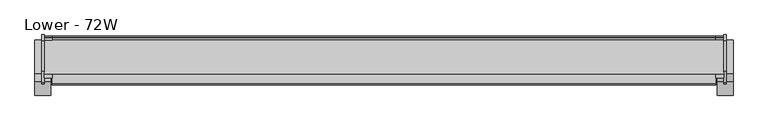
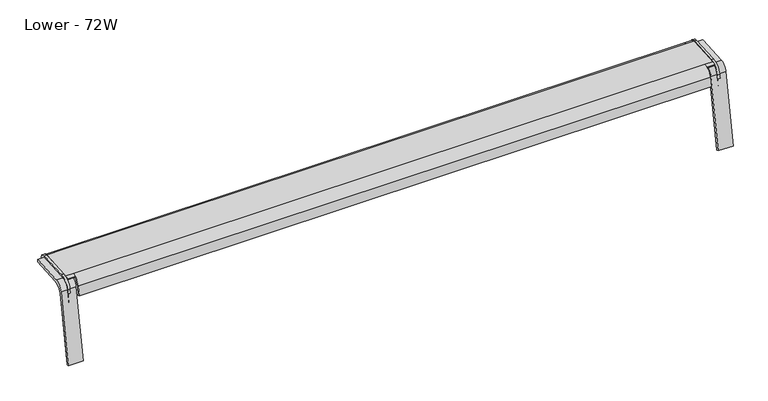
"""IFC4 building model written with IfcOpenShell, lengths in millimetres: furniture geometry, Steelcase Turnstone - Bivi - Accessories - Footshelf : Lower - 72W."""

from ifc_helpers import new_model, si_unit, point, frame, frame_2d, origin, place, context, project, spatial, polyline, circle_curve, trimmed, segment, composite_curve, outline, extrude, source, transform, mapped, element, save
from ifc_brep_helpers import plane_surface, cylinder_surface, revolved_surface, advanced_brep


def lower_72w_69a91847(model_context):
    return source(origin(), model_context, "Body", "SolidModel", [
        advanced_brep(
        [(3.8089258, -349.7007928, 225.2598813), (3.8089258, -347.9860524, 241.5745471), (3.8089258, -355.8408855, 249.7457315), (3.8089258, -443.2925363, 244.0318234), (3.8089258, -454.2428859, 240.8854416), (3.8089258, -456.4013878, 245.1785525), (3.8089258, -445.8509343, 248.0480858), (3.8089258, -354.5223353, 254.0153056), (3.8089258, -343.7814901, 242.8418758), (3.8089258, -345.6739167, 224.8366396), (1824.9910742, -345.6739167, 224.8366396), (1824.9910742, -349.7007928, 225.2598813), (25.4029566, -343.7814901, 242.8418758), (1803.3970434, -343.7814901, 242.8418758), (1824.9910742, -343.7814901, 242.8418758), (25.4029566, -354.5223353, 254.0153056), (25.4029566, -445.8509343, 248.0480858), (1803.3970434, -445.8509343, 248.0480858), (1824.9910742, -445.8509343, 248.0480858), (1824.9910742, -354.5223353, 254.0153056), (1803.3970434, -354.5223353, 254.0153056), (25.4029566, -456.4013878, 245.1785525), (25.4029566, -443.2925363, 244.0318234), (25.4029566, -454.2428859, 240.8854416), (25.4029566, -355.8408855, 249.7457315), (1803.3970434, -355.8408855, 249.7457315), (1824.9910742, -355.8408855, 249.7457315), (1824.9910742, -443.2925363, 244.0318234), (1803.3970434, -443.2925363, 244.0318234), (25.4029566, -347.9860524, 241.5745471), (1824.9910742, -347.9860524, 241.5745471), (1803.3970434, -347.9860524, 241.5745471), (1824.9910742, -456.4013878, 245.1785525), (1824.9910742, -454.2428859, 240.8854416), (1803.3970434, -456.4013878, 245.1785525), (1803.3970434, -454.2428859, 240.8854416), (1803.3970434, -471.1171503, 225.402562), (1803.3970434, -475.8257425, 198.6988086), (1803.3970434, -472.1069682, 198.1098126), (1803.3970434, -467.8983227, 221.9782273), (25.4029566, -467.8983227, 221.9782273), (25.4029566, -472.1069682, 198.1098126), (25.4029566, -475.8257425, 198.6988086), (25.4029566, -471.1171503, 225.402562)],
        [
            (0, 1),
            (1, 2, circle_curve(frame((3.8089258, -355.3576201, 242.3493301), z_axis=(1.0, 0.0, 0.0), x_axis=(0.0, 1.0, 0.0)), 7.4121724)),
            (2, 3),
            (3, 4, circle_curve(frame((3.8089258, -441.5480229, 217.3319585), z_axis=(1.0, 0.0, 0.0), x_axis=(0.0, 1.0, 0.0)), 26.7567957)),
            (4, 5),
            (5, 6, circle_curve(frame((3.8089258, -444.0595974, 220.6315854), z_axis=(-1.0, 0.0, 0.0), x_axis=(0.0, 1.0, 0.0)), 27.4749592)),
            (6, 7),
            (7, 8, circle_curve(frame((3.8089258, -353.8615092, 243.9013285), z_axis=(-1.0, 0.0, 0.0), x_axis=(0.0, 1.0, 0.0)), 10.1355426)),
            (8, 9),
            (9, 0),
            (9, 10),
            (10, 11),
            (11, 0),
            (8, 12),
            (12, 13),
            (13, 14),
            (14, 10),
            (7, 15),
            (15, 12, circle_curve(frame((25.4029566, -353.8615092, 243.9013285), z_axis=(-1.0, 0.0, 0.0), x_axis=(0.0, 1.0, 0.0)), 10.1355426)),
            (6, 16),
            (16, 17),
            (17, 18),
            (18, 19),
            (19, 20),
            (20, 15),
            (5, 21),
            (21, 16, circle_curve(frame((25.4029566, -444.0595974, 220.6315854), z_axis=(-1.0, 0.0, 0.0), x_axis=(0.0, 1.0, 0.0)), 27.4749592)),
            (3, 22),
            (22, 23, circle_curve(frame((25.4029566, -441.5480229, 217.3319585), z_axis=(1.0, 0.0, 0.0), x_axis=(0.0, 1.0, 0.0)), 26.7567957)),
            (23, 4),
            (2, 24),
            (24, 25),
            (25, 26),
            (26, 27),
            (27, 28),
            (28, 22),
            (1, 29),
            (29, 24, circle_curve(frame((25.4029566, -355.3576201, 242.3493301), z_axis=(1.0, 0.0, 0.0), x_axis=(0.0, 1.0, 0.0)), 7.4121724)),
            (11, 30),
            (30, 31),
            (31, 29),
            (23, 21),
            (14, 19, circle_curve(frame((1824.9910742, -353.8615092, 243.9013285), z_axis=(1.0, 0.0, 0.0), x_axis=(0.0, 1.0, 0.0)), 10.1355426)),
            (18, 32, circle_curve(frame((1824.9910742, -444.0595974, 220.6315854), z_axis=(1.0, 0.0, 0.0), x_axis=(0.0, 1.0, 0.0)), 27.4749592)),
            (32, 33),
            (33, 27, circle_curve(frame((1824.9910742, -441.5480229, 217.3319585), z_axis=(-1.0, 0.0, 0.0), x_axis=(0.0, 1.0, 0.0)), 26.7567957)),
            (26, 30, circle_curve(frame((1824.9910742, -355.3576201, 242.3493301), z_axis=(-1.0, 0.0, 0.0), x_axis=(0.0, 1.0, 0.0)), 7.4121724)),
            (13, 20, circle_curve(frame((1803.3970434, -353.8615092, 243.9013285), z_axis=(1.0, 0.0, 0.0), x_axis=(0.0, 1.0, 0.0)), 10.1355426)),
            (17, 34, circle_curve(frame((1803.3970434, -444.0595974, 220.6315854), z_axis=(1.0, 0.0, 0.0), x_axis=(0.0, 1.0, 0.0)), 27.4749592)),
            (34, 32),
            (33, 35),
            (35, 28, circle_curve(frame((1803.3970434, -441.5480229, 217.3319585), z_axis=(-1.0, 0.0, 0.0), x_axis=(0.0, 1.0, 0.0)), 26.7567957)),
            (25, 31, circle_curve(frame((1803.3970434, -355.3576201, 242.3493301), z_axis=(-1.0, 0.0, 0.0), x_axis=(0.0, 1.0, 0.0)), 7.4121724)),
            (34, 35),
            (36, 37),
            (37, 38),
            (38, 39),
            (39, 35, circle_curve(frame((1803.3970434, -441.5480229, 217.3319585), z_axis=(-1.0, 0.0, 0.0), x_axis=(0.0, 1.0, 0.0)), 26.7567957)),
            (34, 36, circle_curve(frame((1803.3970434, -444.0595974, 220.6315854), z_axis=(1.0, 0.0, 0.0), x_axis=(0.0, 1.0, 0.0)), 27.4749592)),
            (40, 41),
            (41, 42),
            (42, 43),
            (43, 21, circle_curve(frame((25.4029566, -444.0595974, 220.6315854), z_axis=(-1.0, 0.0, 0.0), x_axis=(0.0, 1.0, 0.0)), 27.4749592)),
            (23, 40, circle_curve(frame((25.4029566, -441.5480229, 217.3319585), z_axis=(1.0, 0.0, 0.0), x_axis=(0.0, 1.0, 0.0)), 26.7567957)),
            (43, 36),
            (42, 37),
            (41, 38),
            (40, 39),
        ],
        [
            plane_surface(frame((3.8089258, -345.6739167, 224.8366396), z_axis=(-1.0, 0.0, 0.0), x_axis=(0.0, -0.9945218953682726, 0.10452846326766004))),
            plane_surface(frame((25.4029566, -349.7007928, 225.2598813), z_axis=(0.0, -0.10452846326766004, -0.9945218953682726), x_axis=(-1.0, 0.0, 0.0))),
            plane_surface(frame((25.4029566, -345.6739167, 224.8366396), z_axis=(0.0, 0.9945218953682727, -0.1045284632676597), x_axis=(-1.0, 0.0, 0.0))),
            cylinder_surface(frame((3.8089258, -353.8615092, 243.9013285), z_axis=(1.0, 0.0, 0.0), x_axis=(0.0, 1.0, 0.0)), 10.1355426),
            plane_surface(frame((25.4029566, -354.5223353, 254.0153056), z_axis=(0.0, -0.06519889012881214, 0.9978722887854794), x_axis=(-1.0, 0.0, 0.0))),
            cylinder_surface(frame((3.8089258, -444.0595974, 220.6315854), z_axis=(1.0, 0.0, 0.0), x_axis=(0.0, 1.0, 0.0)), 27.4749592),
            revolved_surface(polyline([(3.8089258, -414.7912272, 217.3319585), (25.4029566, -414.7912272, 217.3319585)]), (3.8089258, -441.5480229, 217.3319585), (-1.0, 0.0, 0.0)),
            plane_surface(frame((25.4029566, -443.2925363, 244.0318234), z_axis=(0.0, 0.065198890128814, -0.9978722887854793), x_axis=(-1.0, 0.0, 0.0))),
            revolved_surface(polyline([(3.8089258, -347.94544770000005, 242.3493301), (25.4029566, -347.94544770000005, 242.3493301)]), (3.8089258, -355.3576201, 242.3493301), (-1.0, 0.0, 0.0)),
            plane_surface(frame((25.4029566, -347.9860524, 241.5745471), z_axis=(0.0, -0.9945218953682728, 0.10452846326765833), x_axis=(-1.0, 0.0, 0.0))),
            plane_surface(frame((25.4029566, -456.4013878, 245.1785525), z_axis=(0.0, -0.8934305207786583, -0.44920140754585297), x_axis=(-1.0, 0.0, 0.0))),
            plane_surface(frame((1824.9910742, -349.7007928, 225.2598813), z_axis=(1.0, 0.0, 0.0), x_axis=(0.0, -0.10452846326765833, -0.9945218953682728))),
            cylinder_surface(frame((1824.9910742, -353.8615092, 243.9013285), z_axis=(-1.0, 0.0, 0.0), x_axis=(0.0, 1.0, 0.0)), 10.1355426),
            cylinder_surface(frame((1824.9910742, -444.0595974, 220.6315854), z_axis=(-1.0, 0.0, 0.0), x_axis=(0.0, 1.0, 0.0)), 27.4749592),
            revolved_surface(polyline([(1824.9910742, -414.7912272, 217.3319585), (1803.3970434, -414.7912272, 217.3319585)]), (1824.9910742, -441.5480229, 217.3319585), (1.0, 0.0, 0.0)),
            revolved_surface(polyline([(1824.9910742, -347.94544770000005, 242.3493301), (1803.3970434, -347.94544770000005, 242.3493301)]), (1824.9910742, -355.3576201, 242.3493301), (1.0, 0.0, 0.0)),
            plane_surface(frame((1803.3970434, -454.2428859, 240.8854416), z_axis=(0.0, -0.8934305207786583, -0.44920140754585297), x_axis=(1.0, 0.0, 0.0))),
            plane_surface(frame((1803.3970434, -345.6739167, 224.8366396), z_axis=(1.0, 0.0, 0.0), x_axis=(0.0, 0.9945218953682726, -0.10452846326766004))),
            plane_surface(frame((25.4029566, -345.6739167, 224.8366396), z_axis=(-1.0, 0.0, 0.0), x_axis=(0.0, -0.9945218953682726, 0.10452846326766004))),
            cylinder_surface(frame((25.4029566, -353.8615092, 243.9013285), z_axis=(1.0, 0.0, 0.0), x_axis=(0.0, 1.0, 0.0)), 10.1355426),
            cylinder_surface(frame((25.4029566, -444.0595974, 220.6315854), z_axis=(1.0, 0.0, 0.0), x_axis=(0.0, 1.0, 0.0)), 27.4749592),
            plane_surface(frame((1803.3970434, -471.1171503, 225.402562), z_axis=(0.0, -0.9848077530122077, 0.173648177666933), x_axis=(-1.0, 0.0, 0.0))),
            plane_surface(frame((1803.3970434, -475.8257425, 198.6988086), z_axis=(0.0, -0.15643446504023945, -0.9876883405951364), x_axis=(-1.0, 0.0, 0.0))),
            plane_surface(frame((1803.3970434, -472.1069682, 198.1098126), z_axis=(0.0, 0.9848077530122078, -0.17364817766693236), x_axis=(-1.0, 0.0, 0.0))),
            revolved_surface(polyline([(25.4029566, -414.7912272, 217.3319585), (1803.3970434, -414.7912272, 217.3319585)]), (25.4029566, -441.5480229, 217.3319585), (-1.0, 0.0, 0.0)),
            revolved_surface(polyline([(25.4029566, -347.94544770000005, 242.3493301), (1803.3970434, -347.94544770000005, 242.3493301)]), (25.4029566, -355.3576201, 242.3493301), (-1.0, 0.0, 0.0)),
        ],
        [
            (0, [[1, 2, 3, 4, 5, 6, 7, 8, 9, 10]]),
            (1, [[-10, 11, 12, 13]]),
            (2, [[-11, -9, 14, 15, 16, 17]]),
            (3, [[-8, 18, 19, -14]]),
            (4, [[-7, 20, 21, 22, 23, 24, 25, -18]]),
            (5, [[-6, 26, 27, -20]]),
            (6, [[-4, 28, 29, 30]]),
            (7, [[-3, 31, 32, 33, 34, 35, 36, -28]]),
            (8, [[-2, 37, 38, -31]]),
            (9, [[-1, -13, 39, 40, 41, -37]]),
            (10, [[-5, -30, 42, -26]]),
            (11, [[-12, -17, 43, -23, 44, 45, 46, -34, 47, -39]]),
            (12, [[-43, -16, 48, -24]]),
            (13, [[-44, -22, 49, 50]]),
            (14, [[-46, 51, 52, -35]]),
            (15, [[-47, -33, 53, -40]]),
            (16, [[-45, -50, 54, -51]]),
            (17, [[55, 56, 57, 58, -54, 59]]),
            (18, [[60, 61, 62, 63, -42, 64]]),
            (19, [[-15, -19, -25, -48]]),
            (20, [[-21, -27, -63, 65, -59, -49]]),
            (21, [[-55, -65, -62, 66]]),
            (22, [[-56, -66, -61, 67]]),
            (23, [[-57, -67, -60, 68]]),
            (24, [[-68, -64, -29, -36, -52, -58]]),
            (25, [[-32, -38, -41, -53]]),
        ],
    ),
        extrude(outline(composite_curve([segment(polyline([(-502.7882548, 23.0795006), (-467.6286114, 222.4797472)]), True, "CONTINUOUS"), segment(trimmed(circle_curve(frame_2d((-442.6144944, 218.0690835)), 25.4), [point((-467.6286114, 222.4797472))], [point((-444.3863089, 243.4072104))], False, "CARTESIAN"), True, "CONTINUOUS"), segment(polyline([(-444.3863089, 243.4072104), (-355.0660173, 249.6530936), (-354.5108168, 241.713356), (-439.4422182, 235.7743738)]), True, "CONTINUOUS"), segment(trimmed(circle_curve(frame_2d((-437.6704038, 210.4362469)), 25.4), [point((-439.4422182, 235.7743738))], [point((-462.6845207, 214.8469107))], True, "CARTESIAN"), True, "CONTINUOUS"), segment(polyline([(-462.6845207, 214.8469107), (-496.6879548, 22.0038531), (-502.7882548, 23.0795006)]), True, "CONTINUOUS")], self_intersect=False)), frame((1807.8432837, 0.0, 0.0), z_axis=(1.0, 0.0, 0.0), x_axis=(0.0, 1.0, 0.0)), (0.0, 0.0, 1.0), 41.9137207),
        extrude(outline(composite_curve([segment(polyline([(-351.0134455, 227.2247298), (-438.2310578, 205.4789367)]), True, "CONTINUOUS"), segment(trimmed(circle_curve(frame_2d((-425.8853939, 155.9631832)), 51.0316105), [point((-438.2310578, 205.4789367))], [point((-467.9594758, 184.8421876))], True, "CARTESIAN"), True, "CONTINUOUS"), segment(polyline([(-467.9594758, 184.8421876), (-474.2083536, 184.8421876), (-468.3520154, 221.8176516)]), True, "CONTINUOUS"), segment(trimmed(circle_curve(frame_2d((-436.025868, 216.6976929)), 32.7290969), [point((-468.3520154, 221.8176516))], [point((-438.3089344, 249.3470633))], False, "CARTESIAN"), True, "CONTINUOUS"), segment(polyline([(-438.3089344, 249.3470633), (-355.4351327, 255.142164)]), True, "CONTINUOUS"), segment(trimmed(circle_curve(frame_2d((-354.4455186, 240.9900232)), 14.1866989), [point((-355.4351327, 255.142164))], [point((-351.0134455, 227.2247298))], False, "CARTESIAN"), True, "CONTINUOUS")], self_intersect=False)), frame((1824.9910742, 0.0, 0.0), z_axis=(1.0, 0.0, 0.0), x_axis=(0.0, 1.0, 0.0)), (0.0, 0.0, 1.0), 6.8553955),
        extrude(outline(composite_curve([segment(polyline([(-502.7882548, 23.0795006), (-467.6286114, 222.4797472)]), True, "CONTINUOUS"), segment(trimmed(circle_curve(frame_2d((-442.6144944, 218.0690835)), 25.4), [point((-467.6286114, 222.4797472))], [point((-444.3863089, 243.4072104))], False, "CARTESIAN"), True, "CONTINUOUS"), segment(polyline([(-444.3863089, 243.4072104), (-355.0660173, 249.6530936), (-354.5108168, 241.713356), (-439.4422182, 235.7743738)]), True, "CONTINUOUS"), segment(trimmed(circle_curve(frame_2d((-437.6704038, 210.4362469)), 25.4), [point((-439.4422182, 235.7743738))], [point((-462.6845207, 214.8469107))], True, "CARTESIAN"), True, "CONTINUOUS"), segment(polyline([(-462.6845207, 214.8469107), (-496.6879548, 22.0038531), (-502.7882548, 23.0795006)]), True, "CONTINUOUS")], self_intersect=False)), frame((-20.9570044, 0.0, 0.0), z_axis=(1.0, 0.0, 0.0), x_axis=(0.0, 1.0, 0.0)), (0.0, 0.0, 1.0), 41.9137207),
        extrude(outline(composite_curve([segment(polyline([(-351.0134455, 227.2247298), (-438.2310578, 205.4789367)]), True, "CONTINUOUS"), segment(trimmed(circle_curve(frame_2d((-425.8853939, 155.9631832)), 51.0316105), [point((-438.2310578, 205.4789367))], [point((-467.9594758, 184.8421876))], True, "CARTESIAN"), True, "CONTINUOUS"), segment(polyline([(-467.9594758, 184.8421876), (-474.2083536, 184.8421876), (-468.3520154, 221.8176516)]), True, "CONTINUOUS"), segment(trimmed(circle_curve(frame_2d((-436.025868, 216.6976929)), 32.7290969), [point((-468.3520154, 221.8176516))], [point((-438.3089344, 249.3470633))], False, "CARTESIAN"), True, "CONTINUOUS"), segment(polyline([(-438.3089344, 249.3470633), (-355.4351327, 255.142164)]), True, "CONTINUOUS"), segment(trimmed(circle_curve(frame_2d((-354.4455186, 240.9900232)), 14.1866989), [point((-355.4351327, 255.142164))], [point((-351.0134455, 227.2247298))], False, "CARTESIAN"), True, "CONTINUOUS")], self_intersect=False)), frame((-3.0464697, 0.0, 0.0), z_axis=(1.0, 0.0, 0.0), x_axis=(0.0, 1.0, 0.0)), (0.0, 0.0, 1.0), 6.8553955),
    ])


if __name__ == "__main__":
    model = new_model("IFC4")
    model_context = context("Model", 3, world=origin())
    ifc_project = project(units=[si_unit("LENGTHUNIT", "METRE", prefix="MILLI")], contexts=[model_context])
    site = spatial("IfcSite", under=ifc_project)
    building = spatial("IfcBuilding", under=site)
    placement = place(None, origin())
    lower_72w_shape = lower_72w_69a91847(model_context)
    element("IfcFurniture", 1, ObjectType="Steelcase Turnstone - Bivi - Accessories - Footshelf : Lower - 72W", at=placement, inside=building, context=model_context, shape_type="MappedRepresentation", body=[
        mapped(lower_72w_shape, transform((0.0, 0.0, 0.0), x_axis=(1.0, 0.0, 0.0), y_axis=(0.0, 1.0, 0.0), z_axis=(0.0, 0.0, 1.0))),
    ])
    save(model, "model.ifc")
